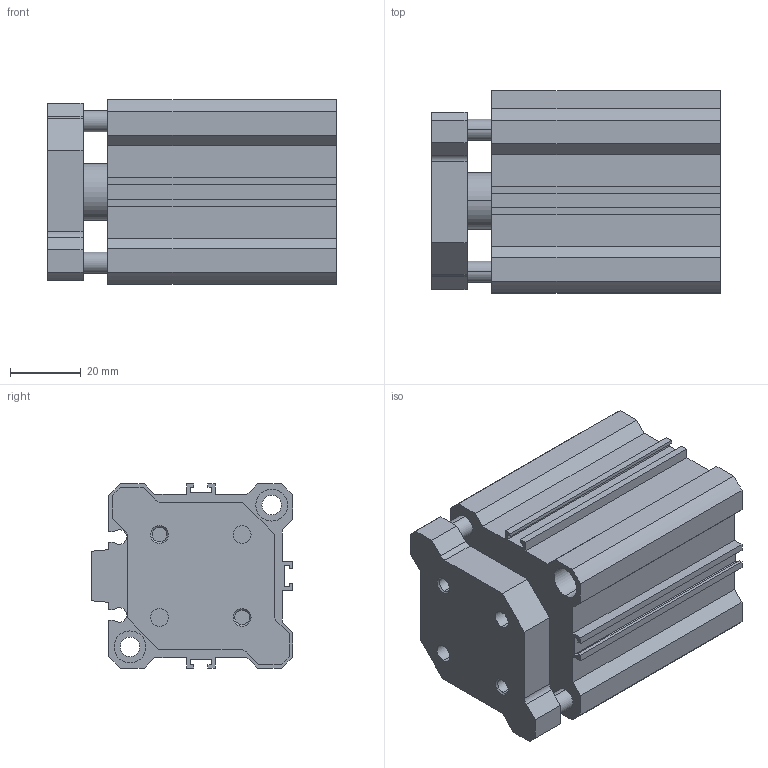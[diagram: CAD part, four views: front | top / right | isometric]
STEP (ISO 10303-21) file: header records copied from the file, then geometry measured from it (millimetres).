
FILE_DESCRIPTION (( 'STEP AP203' ), '1' );
FILE_NAME ('CCMG40-25.STEP', '2020-04-01T18:45:13', ( '' ), ( '' ), 'SwSTEP 2.0', 'SolidWorks 2019', '' );
FILE_SCHEMA (( 'CONFIG_CONTROL_DESIGN' ));
Length unit declared in the file: millimetre
Products named in the file (1): CCMG40-25
Bounding box: 81.5 x 57 x 52 mm (x, y, z)
Volume: 148505.4 mm3; surface area: 47836.7 mm2
Topology: 2 solids, 2 shells, 164 faces, 428 edges, 278 vertices
Faces by surface type: plane 92, cylinder 56, cone 16
Entity records: 5099 total; most frequent: DIRECTION 878, CARTESIAN_POINT 867, ORIENTED_EDGE 848, EDGE_CURVE 424, VECTOR 300, LINE 300, AXIS2_PLACEMENT_3D 289, VERTEX_POINT 278
